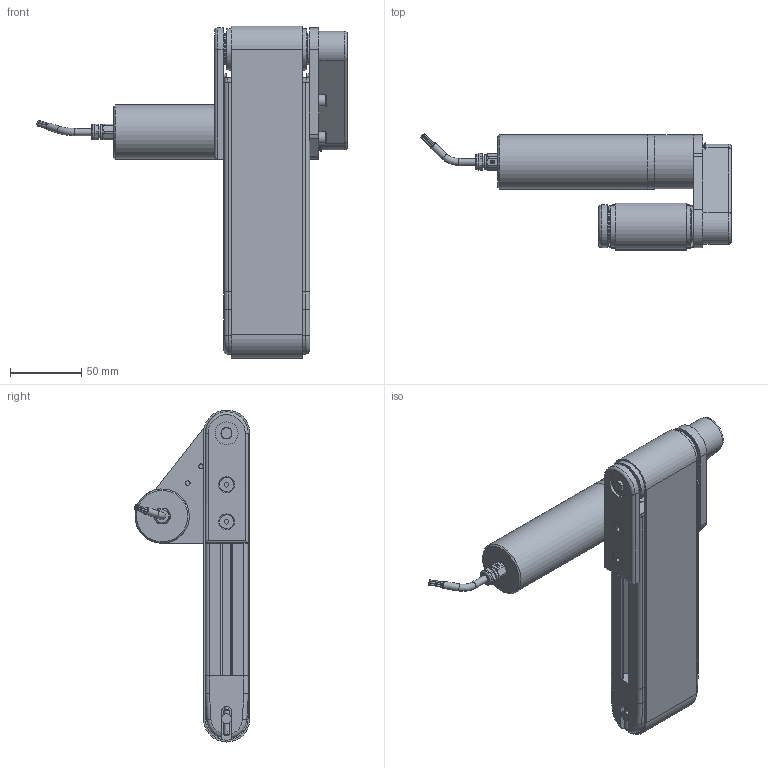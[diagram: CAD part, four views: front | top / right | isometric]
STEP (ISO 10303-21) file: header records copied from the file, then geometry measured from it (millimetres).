
FILE_DESCRIPTION(/* description */ (''),/* implementation_level */ '2;1');
FILE_NAME(/* name */ 'G:\DATEN\CAD\Förderband\Marketing\3D-Modelle (Standard)\BK-30-60\BK-30-60-1-K.stp',/* time_stamp */ '2019-05-13T09:02:23+02:00',/* author */ ('melanie.ochs'),/* organization */ (''),/* preprocessor_version */ 'ST-DEVELOPER v17',/* originating_system */ 'Autodesk Inventor 2019',/* authorisation */ '');
FILE_SCHEMA (('CONFIG_CONTROL_DESIGN'));
Length unit declared in the file: millimetre
Products named in the file (1): BK-30-60-1-K
Bounding box: 217.79 x 81.17 x 232.6 mm (x, y, z)
Volume: 465133.4 mm3; surface area: 259491.2 mm2
Topology: 43 solids, 44 shells, 1109 faces, 2956 edges, 1994 vertices
Faces by surface type: plane 515, cylinder 385, cone 101, bspline 62, torus 46
Full cylindrical faces by diameter (mm): 1 x6, 1.783 x4, 2 x6, 2.459 x4, 2.5 x8, 2.729 x4, 3 x4, 3.1 x2, 3.242 x2, 3.5 x4, 4 x4, 4.134 x1, 4.4 x2, 4.917 x2, 5 x17, 5.2 x2, 5.4 x2, 6 x4, 6.5 x2, 6.773 x1, 6.917 x1, 7 x5, 8 x2, 8.5 x2, 8.773 x1, 10 x9, 10.7 x2, 11 x1, 16 x2, 19 x4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
Entity records: 37392 total; most frequent: CARTESIAN_POINT 8113, DIRECTION 5880, ORIENTED_EDGE 5878, EDGE_CURVE 2939, AXIS2_PLACEMENT_3D 2194, VERTEX_POINT 1994, LINE 1492, VECTOR 1492
